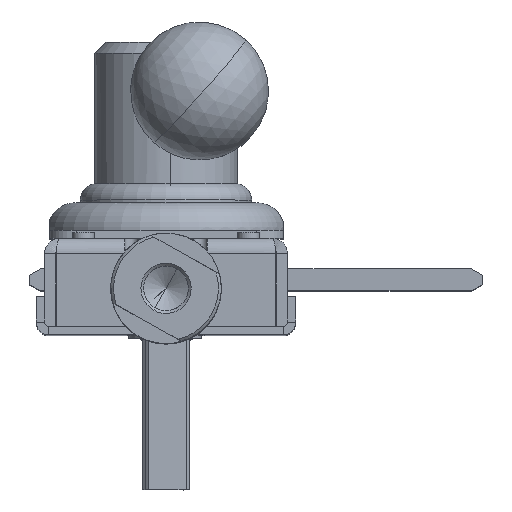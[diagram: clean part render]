
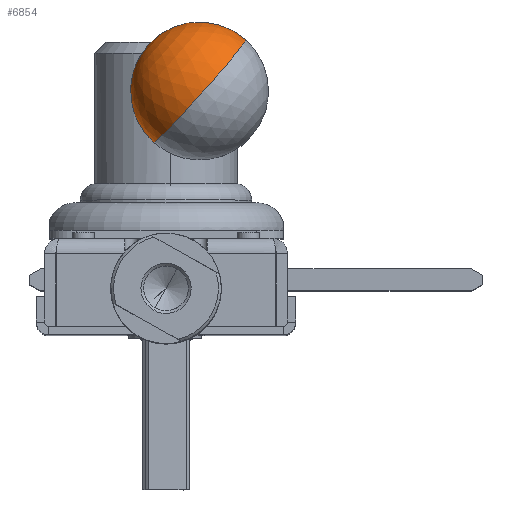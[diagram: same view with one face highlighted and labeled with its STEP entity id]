
A CAD part, top view. The second image highlights one B-rep face of the part: STEP entity #6854.
In plain terms, the highlighted spherical face has radius 12.5 mm.
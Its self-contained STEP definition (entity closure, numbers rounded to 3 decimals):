
#1636 = EDGE_CURVE ( 'NONE', #16518, #32545, #18897, .T. ) ;
#2786 = EDGE_LOOP ( 'NONE', ( #29519, #27241, #9532 ) ) ;
#4265 = EDGE_CURVE ( 'NONE', #30097, #16518, #19199, .T. ) ;
#4753 = AXIS2_PLACEMENT_3D ( 'NONE', #7073, #25223, #9664 ) ;
#6854 = ADVANCED_FACE ( 'NONE', ( #23957 ), #31698, .T. ) ;
#7073 = CARTESIAN_POINT ( 'NONE',  ( 0., 0., 0. ) ) ;
#9532 = ORIENTED_EDGE ( 'NONE', *, *, #1636, .T. ) ;
#9664 = DIRECTION ( 'NONE',  ( 1., 0., 0. ) ) ;
#11580 = CIRCLE ( 'NONE', #19721, 12.5 ) ;
#11736 = CARTESIAN_POINT ( 'NONE',  ( 0., 0., 0. ) ) ;
#11992 = AXIS2_PLACEMENT_3D ( 'NONE', #15168, #33346, #17780 ) ;
#12549 = EDGE_CURVE ( 'NONE', #30097, #32545, #11580, .T. ) ;
#14431 = DIRECTION ( 'NONE',  ( 1., 0., 0. ) ) ;
#14687 = CARTESIAN_POINT ( 'NONE',  ( 0., 0., 0. ) ) ;
#15168 = CARTESIAN_POINT ( 'NONE',  ( 0., -10., 0. ) ) ;
#16518 = VERTEX_POINT ( 'NONE', #28018 ) ;
#17295 = DIRECTION ( 'NONE',  ( -1., 0., 0. ) ) ;
#17780 = DIRECTION ( 'NONE',  ( -1., 0., 0. ) ) ;
#18897 = CIRCLE ( 'NONE', #4753, 12.5 ) ;
#19199 = CIRCLE ( 'NONE', #11992, 7.5 ) ;
#19721 = AXIS2_PLACEMENT_3D ( 'NONE', #14687, #32863, #17295 ) ;
#23957 = FACE_OUTER_BOUND ( 'NONE', #2786, .T. ) ;
#24859 = AXIS2_PLACEMENT_3D ( 'NONE', #11736, #27362, #14431 ) ;
#25223 = DIRECTION ( 'NONE',  ( 0., 0., 1. ) ) ;
#26568 = CARTESIAN_POINT ( 'NONE',  ( 0., 12.5, 0. ) ) ;
#26958 = CARTESIAN_POINT ( 'NONE',  ( -7.5, -10., 0. ) ) ;
#27241 = ORIENTED_EDGE ( 'NONE', *, *, #4265, .T. ) ;
#27362 = DIRECTION ( 'NONE',  ( 0., 0., -1. ) ) ;
#28018 = CARTESIAN_POINT ( 'NONE',  ( 7.5, -10., 0. ) ) ;
#29519 = ORIENTED_EDGE ( 'NONE', *, *, #12549, .F. ) ;
#30097 = VERTEX_POINT ( 'NONE', #26958 ) ;
#31698 = SPHERICAL_SURFACE ( 'NONE', #24859, 12.5 ) ;
#32545 = VERTEX_POINT ( 'NONE', #26568 ) ;
#32863 = DIRECTION ( 'NONE',  ( 0., 0., -1. ) ) ;
#33346 = DIRECTION ( 'NONE',  ( 0., 1., 0. ) ) ;
